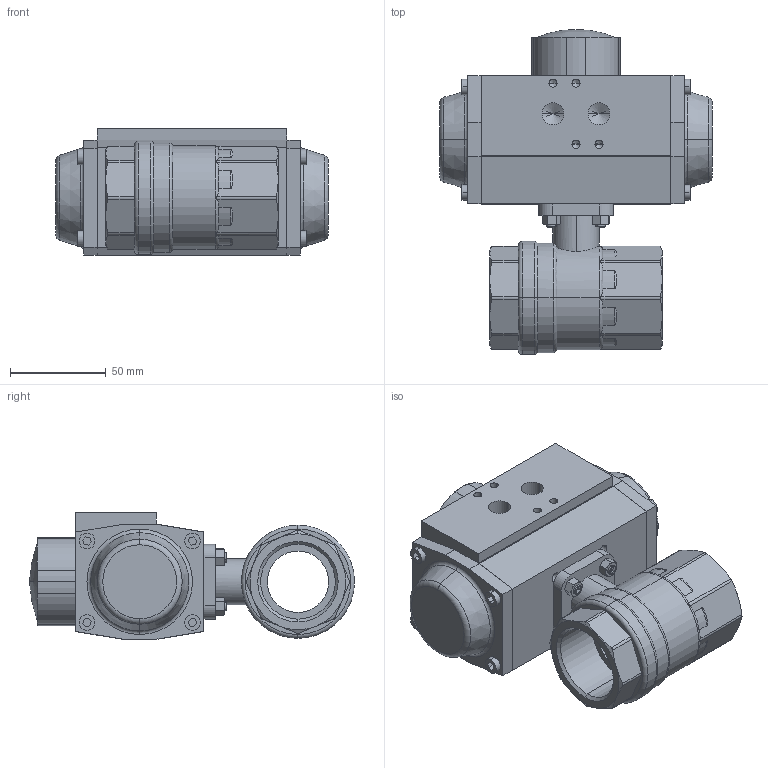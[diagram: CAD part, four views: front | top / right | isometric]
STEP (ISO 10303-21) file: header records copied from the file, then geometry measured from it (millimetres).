
FILE_DESCRIPTION (( 'STEP AP214' ), '1' );
FILE_NAME ('A25-DN32-G1 1_4+AP1.step', '2011-03-03T09:48:22', ( '' ), ( '' ), 'SwSTEP 2.0', 'SolidWorks 2011', '' );
FILE_SCHEMA (( 'AUTOMOTIVE_DESIGN' ));
Length unit declared in the file: millimetre
Products named in the file (5): Hexagon Nut ISO 4032 - M5 - D - N_Hexagon Nut ISO 4032 - M5 - D - N; DIN 913 - M5 x 25-N_DIN 913 - M5 x 25-N; AP1_Default<As Machined>; Ballvalve A25-DN32 G1 1_4; A25-DN32-G1 1_4+AP1
Assembly tree (10 placements, depth 2):
  A25-DN32-G1 1_4+AP1
    Hexagon Nut ISO 4032 - M5 - D - N_Hexagon Nut ISO 4032 - M5 - D - N  x4
    DIN 913 - M5 x 25-N_DIN 913 - M5 x 25-N  x4
    AP1_Default<As Machined>
    Ballvalve A25-DN32 G1 1_4
Bounding box: 142 x 169.49 x 66 mm (x, y, z)
Volume: 698720.8 mm3; surface area: 96045.4 mm2
Topology: 13 solids, 13 shells, 524 faces, 1234 edges, 750 vertices
Faces by surface type: plane 215, cone 142, cylinder 139, torus 26, sphere 2
Entity records: 13220 total; most frequent: CARTESIAN_POINT 2921, DIRECTION 1915, ORIENTED_EDGE 1844, EDGE_CURVE 922, AXIS2_PLACEMENT_3D 702, VERTEX_POINT 588, LINE 511, VECTOR 511
